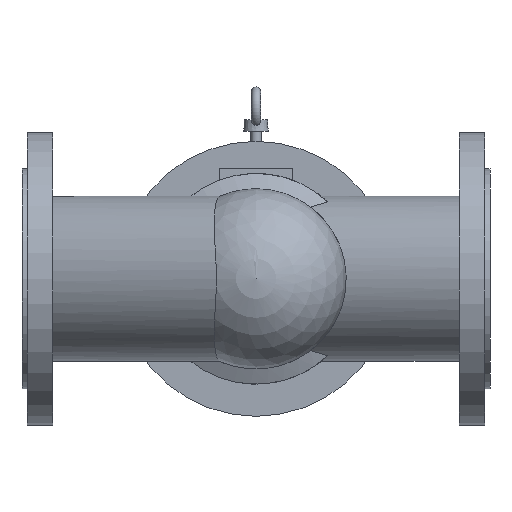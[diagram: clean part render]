
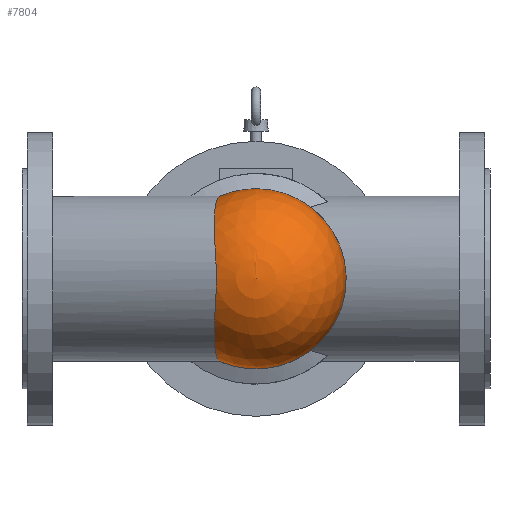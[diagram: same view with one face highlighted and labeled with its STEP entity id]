
A CAD part, front view. The second image highlights one B-rep face of the part: STEP entity #7804.
In plain terms, the highlighted spherical face has radius 77 mm.
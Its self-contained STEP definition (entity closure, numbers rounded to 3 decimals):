
#14=SPHERICAL_SURFACE('',#8285,77.);
#257=B_SPLINE_CURVE_WITH_KNOTS('',3,(#13059,#13060,#13061,#13062,#13063,
#13064,#13065,#13066,#13067,#13068,#13069,#13070,#13071,#13072,#13073,#13074,
#13075,#13076,#13077,#13078),.UNSPECIFIED.,.F.,.F.,(4,2,2,2,2,2,2,2,2,4),
(-43.098,-42.428,-41.759,-40.419,
-39.08,-37.74,-36.367,-34.994,-33.621,
-32.696),.UNSPECIFIED.);
#258=B_SPLINE_CURVE_WITH_KNOTS('',3,(#13079,#13080,#13081,#13082,#13083,
#13084,#13085,#13086,#13087,#13088,#13089,#13090,#13091,#13092,#13093,#13094,
#13095,#13096,#13097,#13098),.UNSPECIFIED.,.F.,.F.,(4,2,2,2,2,2,2,2,2,4),
(32.696,33.621,34.994,36.367,37.74,
39.08,40.419,41.759,42.428,43.098),
 .UNSPECIFIED.);
#1051=FACE_OUTER_BOUND('',#1496,.T.);
#1496=EDGE_LOOP('',(#6939,#6940,#6941,#6942,#6943,#6944));
#3118=CIRCLE('',#8137,77.);
#3119=CIRCLE('',#8138,77.);
#3177=CIRCLE('',#8286,77.);
#3708=VERTEX_POINT('',#12792);
#3709=VERTEX_POINT('',#12793);
#3710=VERTEX_POINT('',#12795);
#3753=VERTEX_POINT('',#13058);
#3876=VERTEX_POINT('',#13483);
#4672=EDGE_CURVE('',#3708,#3709,#3118,.T.);
#4673=EDGE_CURVE('',#3709,#3710,#3119,.T.);
#4735=EDGE_CURVE('',#3753,#3710,#257,.T.);
#4736=EDGE_CURVE('',#3708,#3753,#258,.T.);
#4921=EDGE_CURVE('',#3709,#3876,#3177,.T.);
#6939=ORIENTED_EDGE('',*,*,#4735,.T.);
#6940=ORIENTED_EDGE('',*,*,#4673,.F.);
#6941=ORIENTED_EDGE('',*,*,#4921,.T.);
#6942=ORIENTED_EDGE('',*,*,#4921,.F.);
#6943=ORIENTED_EDGE('',*,*,#4672,.F.);
#6944=ORIENTED_EDGE('',*,*,#4736,.T.);
#7804=ADVANCED_FACE('',(#1051),#14,.T.);
#8137=AXIS2_PLACEMENT_3D('',#12794,#9468,#9469);
#8138=AXIS2_PLACEMENT_3D('',#12796,#9470,#9471);
#8285=AXIS2_PLACEMENT_3D('',#13482,#9938,#9939);
#8286=AXIS2_PLACEMENT_3D('',#13484,#9940,#9941);
#9468=DIRECTION('center_axis',(0.,1.,0.));
#9469=DIRECTION('ref_axis',(1.,0.,0.));
#9470=DIRECTION('center_axis',(0.,1.,0.));
#9471=DIRECTION('ref_axis',(1.,0.,0.));
#9938=DIRECTION('center_axis',(0.,1.,0.));
#9939=DIRECTION('ref_axis',(0.,0.,-1.));
#9940=DIRECTION('center_axis',(1.,0.,0.));
#9941=DIRECTION('ref_axis',(0.,0.,1.));
#12792=CARTESIAN_POINT('',(-21.814,-187.953,50.861));
#12793=CARTESIAN_POINT('',(9.465,-187.953,57.5));
#12794=CARTESIAN_POINT('Origin',(9.465,-187.953,-19.5));
#12795=CARTESIAN_POINT('',(-21.814,-187.953,-89.861));
#12796=CARTESIAN_POINT('Origin',(9.465,-187.953,-19.5));
#13058=CARTESIAN_POINT('',(-24.358,-257.126,-19.5));
#13059=CARTESIAN_POINT('Ctrl Pts',(-24.358,-257.126,
-19.5));
#13060=CARTESIAN_POINT('Ctrl Pts',(-24.358,-257.126,
-21.732));
#13061=CARTESIAN_POINT('Ctrl Pts',(-24.392,-257.002,
-23.993));
#13062=CARTESIAN_POINT('Ctrl Pts',(-24.518,-256.493,-28.53));
#13063=CARTESIAN_POINT('Ctrl Pts',(-24.612,-256.11,
-30.806));
#13064=CARTESIAN_POINT('Ctrl Pts',(-24.944,-254.58,
-37.597));
#13065=CARTESIAN_POINT('Ctrl Pts',(-25.231,-253.051,
-42.077));
#13066=CARTESIAN_POINT('Ctrl Pts',(-25.73,-249.123,
-50.66));
#13067=CARTESIAN_POINT('Ctrl Pts',(-25.939,-246.72,
-54.769));
#13068=CARTESIAN_POINT('Ctrl Pts',(-26.181,-241.265,
-62.373));
#13069=CARTESIAN_POINT('Ctrl Pts',(-26.215,-238.211,
-65.868));
#13070=CARTESIAN_POINT('Ctrl Pts',(-26.104,-231.7,
-72.14));
#13071=CARTESIAN_POINT('Ctrl Pts',(-25.952,-227.999,
-75.123));
#13072=CARTESIAN_POINT('Ctrl Pts',(-25.442,-219.985,
-80.389));
#13073=CARTESIAN_POINT('Ctrl Pts',(-25.084,-215.672,
-82.672));
#13074=CARTESIAN_POINT('Ctrl Pts',(-24.193,-206.706,
-86.344));
#13075=CARTESIAN_POINT('Ctrl Pts',(-23.66,-202.046,
-87.736));
#13076=CARTESIAN_POINT('Ctrl Pts',(-22.673,-194.221,
-89.266));
#13077=CARTESIAN_POINT('Ctrl Pts',(-22.25,-191.064,
-89.667));
#13078=CARTESIAN_POINT('Ctrl Pts',(-21.814,-187.953,
-89.861));
#13079=CARTESIAN_POINT('Ctrl Pts',(-21.814,-187.953,
50.861));
#13080=CARTESIAN_POINT('Ctrl Pts',(-22.25,-191.064,
50.667));
#13081=CARTESIAN_POINT('Ctrl Pts',(-22.673,-194.221,
50.266));
#13082=CARTESIAN_POINT('Ctrl Pts',(-23.66,-202.046,
48.736));
#13083=CARTESIAN_POINT('Ctrl Pts',(-24.193,-206.706,
47.344));
#13084=CARTESIAN_POINT('Ctrl Pts',(-25.084,-215.672,
43.672));
#13085=CARTESIAN_POINT('Ctrl Pts',(-25.442,-219.985,
41.389));
#13086=CARTESIAN_POINT('Ctrl Pts',(-25.952,-227.999,
36.123));
#13087=CARTESIAN_POINT('Ctrl Pts',(-26.104,-231.7,
33.14));
#13088=CARTESIAN_POINT('Ctrl Pts',(-26.215,-238.211,
26.868));
#13089=CARTESIAN_POINT('Ctrl Pts',(-26.181,-241.265,
23.373));
#13090=CARTESIAN_POINT('Ctrl Pts',(-25.939,-246.72,
15.769));
#13091=CARTESIAN_POINT('Ctrl Pts',(-25.73,-249.123,
11.66));
#13092=CARTESIAN_POINT('Ctrl Pts',(-25.231,-253.051,3.077));
#13093=CARTESIAN_POINT('Ctrl Pts',(-24.944,-254.58,
-1.403));
#13094=CARTESIAN_POINT('Ctrl Pts',(-24.612,-256.11,
-8.194));
#13095=CARTESIAN_POINT('Ctrl Pts',(-24.518,-256.493,-10.47));
#13096=CARTESIAN_POINT('Ctrl Pts',(-24.392,-257.002,
-15.007));
#13097=CARTESIAN_POINT('Ctrl Pts',(-24.358,-257.126,
-17.268));
#13098=CARTESIAN_POINT('Ctrl Pts',(-24.358,-257.126,
-19.5));
#13482=CARTESIAN_POINT('Origin',(9.465,-187.953,-19.5));
#13483=CARTESIAN_POINT('',(9.465,-264.953,-19.5));
#13484=CARTESIAN_POINT('Origin',(9.465,-187.953,-19.5));
